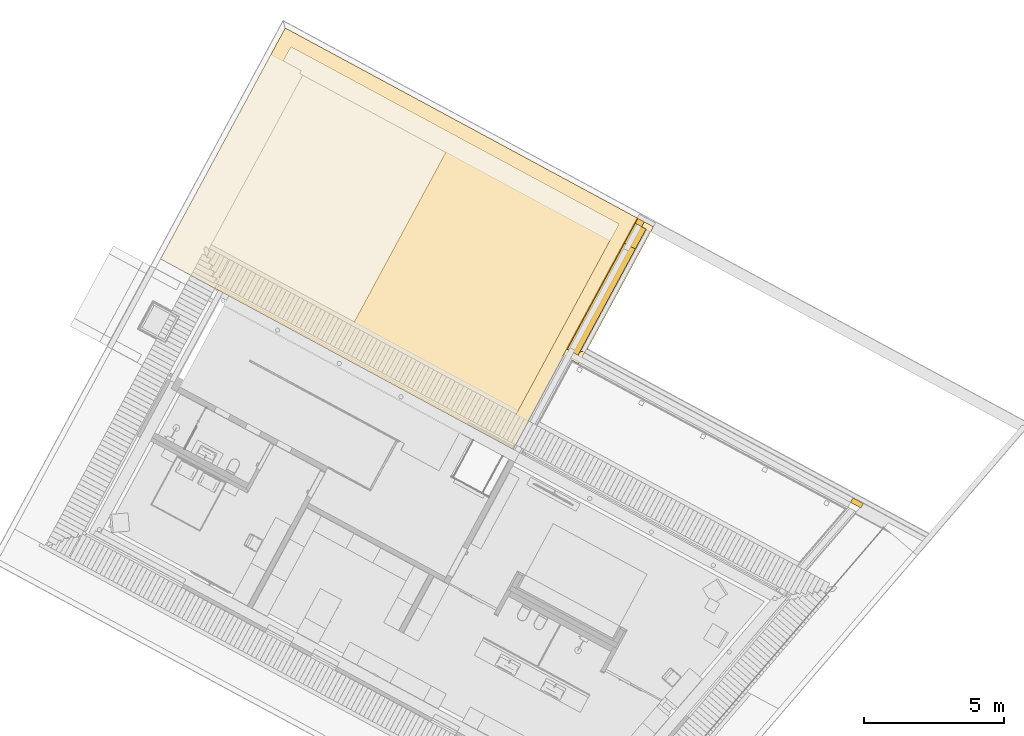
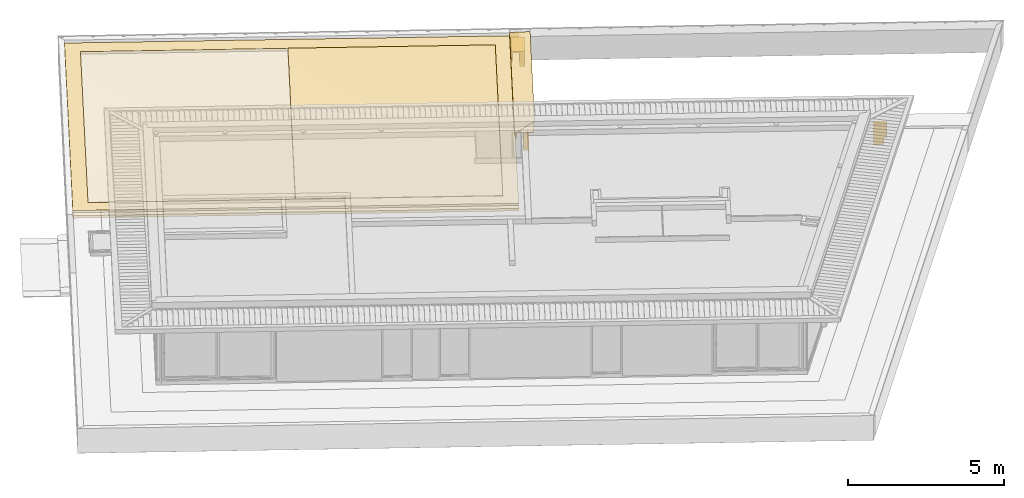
# One storey, part 15 of 48: 8 coverings.
"""IFC2X3 building model written with IfcOpenShell, lengths in metres."""

from ifc_helpers import new_model, entity, si_unit, converted_unit, derived_unit, money_unit, direction, frame, origin_with_axes, place, context, subcontext, project, spatial, faceted_brep, material, material_list, type_object, element, save


model = new_model("IFC2X3")

# Units and contexts
model_context = context("Model", 3, precision=1e-05, world=origin_with_axes(), true_north=direction((0.0, 1.0)))
body_context = subcontext(model_context, "Body", "Model", "MODEL_VIEW")
ifc_project = project(units=[si_unit("LENGTHUNIT", "METRE"), si_unit("AREAUNIT", "SQUARE_METRE"), si_unit("VOLUMEUNIT", "CUBIC_METRE"), converted_unit("PLANEANGLEUNIT", "DEGREE", entity("IfcPlaneAngleMeasure", 0.0174532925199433), si_unit("PLANEANGLEUNIT", "RADIAN"), dimensions=[0, 0, 0, 0, 0, 0, 0]), money_unit("EUR"), converted_unit("TIMEUNIT", "Year", entity("IfcTimeMeasure", 31556926.0), si_unit("TIMEUNIT", "SECOND"), dimensions=[0, 0, 1, 0, 0, 0, 0]), si_unit("MASSUNIT", "GRAM", prefix="KILO"), si_unit("THERMODYNAMICTEMPERATUREUNIT", "DEGREE_CELSIUS"), si_unit("LUMINOUSINTENSITYUNIT", "LUMEN"), si_unit("ENERGYUNIT", "JOULE", prefix="MEGA"), derived_unit("THERMALCONDUCTANCEUNIT", [(si_unit("POWERUNIT", "WATT"), 1), (si_unit("LENGTHUNIT", "METRE"), -1), (si_unit("THERMODYNAMICTEMPERATUREUNIT", "KELVIN"), -1)]), derived_unit("SPECIFICHEATCAPACITYUNIT", [(si_unit("ENERGYUNIT", "JOULE"), 1), (si_unit("MASSUNIT", "GRAM", prefix="KILO"), -1), (si_unit("THERMODYNAMICTEMPERATUREUNIT", "KELVIN"), -1)]), derived_unit("MASSDENSITYUNIT", [(si_unit("MASSUNIT", "GRAM", prefix="KILO"), 1), (si_unit("VOLUMEUNIT", "CUBIC_METRE"), -1)])], contexts=[model_context])

# Site, building, storey
site_placement = place(None, frame((-3.949935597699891, 1.740105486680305, 0.0), z_axis=(0.0, 0.0, 1.0), x_axis=(0.8799804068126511, -0.475009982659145, 0.0)))
site = spatial("IfcSite", under=ifc_project, at=site_placement, Name="Gelände", CompositionType="ELEMENT")
building_placement = place(site_placement, origin_with_axes())
building = spatial("IfcBuilding", under=site, at=building_placement, Name="Gebäude", CompositionType="ELEMENT")
storey_placement = place(building_placement, frame((0.0, 0.0, 4.55), z_axis=(0.0, 0.0, 1.0), x_axis=(1.0, 0.0, 0.0)))
storey = spatial("IfcBuildingStorey", under=building, at=storey_placement, Name="Staffelgeschoss", CompositionType="ELEMENT", Elevation=4.55)

# Coverings
ifc_material_1 = material(Name="_SIWH - Dämmung, hart Mineralwolle")
covering_type_1 = type_object("IfcCoveringType", Name="_SIWH - Dämmung, hart Mineralwolle 100", PredefinedType="NOTDEFINED")
covering_1_placement = place(storey_placement, frame((2.837489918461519, 20.38528216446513, -0.3499999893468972), z_axis=(0.0, 0.0, 1.0), x_axis=(1.0, 0.0, 0.0)))
element("IfcCovering", 1, at=covering_1_placement, inside=storey, type_object=covering_type_1, material=ifc_material_1, Name="Decke012", PredefinedType="NOTDEFINED", context=body_context, shape_type="Brep", body=[
    faceted_brep([(0.0, 0.0, 0.0), (0.0, 0.0, -0.09999999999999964), (0.0, -9.34748161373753, -0.09999999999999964), (0.0, -9.34748161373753, 0.0), (14.26998597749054, 0.0, 0.0), (14.26998597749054, 0.0, -0.09999999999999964), (14.27000043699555, -9.34748161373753, -0.09999999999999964), (14.27000043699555, -9.34748161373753, 0.0)], [[[0, 1, 2, 3]], [[4, 5, 1, 0]], [[2, 1, 5, 6]], [[3, 2, 6, 7]], [[4, 0, 3, 7]], [[7, 6, 5, 4]]]),
])
ifc_material_2 = material(Name="_SIWH - Gründach")
covering_type_2 = type_object("IfcCoveringType", Name="_SIWH - Gründach", PredefinedType="NOTDEFINED")
covering_2_placement = place(storey_placement, frame((9.972490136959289, 11.0378005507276, -0.3299999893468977), z_axis=(0.0, 0.0, 1.0), x_axis=(1.0, 0.0, 0.0)))
element("IfcCovering", 2, at=covering_2_placement, inside=storey, type_object=covering_type_2, material=ifc_material_2, Name="Freifläche-006", PredefinedType="NOTDEFINED", context=body_context, shape_type="Brep", body=[
    faceted_brep([(6.635000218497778, 8.84748155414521, 0.1847004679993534), (0.0, 8.84748155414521, 0.1847004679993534), (0.0, 8.241240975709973, 0.1709999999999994), (6.635000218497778, 8.241240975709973, 0.1709999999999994), (6.635000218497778, 8.84748155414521, 0.08470046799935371), (0.0, 8.84748155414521, 0.08470046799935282), (0.0, 0.4350000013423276, 0.08616940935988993), (0.0, 0.4350000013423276, 0.1861694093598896), (0.0, 1.1062407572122, 0.1709999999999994), (0.0, 8.241240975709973, 0.07099999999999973), (0.0, 1.1062407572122, 0.07100000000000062), (6.635000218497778, 7.741240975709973, 0.1610490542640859), (3.56750010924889, 4.673740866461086, 0.09999999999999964), (6.635000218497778, 1.6062407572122, 0.1610490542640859), (6.635000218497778, 1.1062407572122, 0.1709999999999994), (6.635000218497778, 0.4350000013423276, 0.1861694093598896), (6.635000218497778, 0.4350000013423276, 0.08616940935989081), (6.635000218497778, 1.1062407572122, 0.07100000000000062), (6.635000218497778, 1.6062407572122, 0.06104905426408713), (6.635000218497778, 7.741240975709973, 0.06104905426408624), (6.635000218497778, 8.241240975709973, 0.07099999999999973), (3.56750010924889, 4.673740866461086, 0.0)], [[[0, 1, 2, 3]], [[1, 0, 4, 5]], [[6, 7, 8, 2, 1, 5, 9, 10]], [[11, 3, 2, 12]], [[0, 3, 11, 13, 14, 15, 16, 17, 18, 19, 20, 4]], [[4, 20, 9, 5]], [[15, 7, 6, 16]], [[15, 14, 8, 7]], [[12, 2, 8]], [[21, 10, 9]], [[16, 6, 10, 17]], [[13, 11, 12]], [[14, 13, 12, 8]], [[18, 17, 10, 21]], [[19, 18, 21]], [[20, 19, 21, 9]]]),
    faceted_brep([(7.134986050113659, 8.241226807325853, 0.1709997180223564), (7.134986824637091, 3.845245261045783, 0.1709997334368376), (7.135000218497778, 3.845245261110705, 0.1709999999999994), (7.135000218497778, 8.241240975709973, 0.1709999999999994), (7.134986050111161, 8.241240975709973, 0.1709999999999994), (7.134985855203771, 9.34748161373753, 0.1959999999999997), (7.134985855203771, 9.34748161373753, 0.09600000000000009), (7.134986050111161, 8.241240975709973, 0.07099999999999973), (7.134986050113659, 8.241226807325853, 0.07099971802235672), (7.134986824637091, 3.845245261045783, 0.07099973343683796), (7.135000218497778, 3.845245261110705, 0.07100000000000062), (7.135000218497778, 8.241240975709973, 0.07099999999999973), (7.135000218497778, 9.34748161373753, 0.09600000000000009), (7.135000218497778, 9.34748161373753, 0.1959999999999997)], [[[0, 1, 2, 3]], [[4, 5, 6, 7, 8, 9, 1, 0]], [[10, 2, 1, 9]], [[2, 10, 11, 12, 13, 3]], [[4, 0, 3]], [[5, 4, 3, 13]], [[6, 5, 13, 12]], [[7, 6, 12, 11]], [[8, 7, 11]], [[9, 8, 11, 10]]]),
])
ifc_material_3 = material(Name="_SIWH - Metall, Aluminium")
ifc_material_4 = material(Name="_SIWH - Holz, Bauholz")
ifc_material_list_1 = material_list([ifc_material_3, ifc_material_4])
covering_type_3 = type_object("IfcCoveringType", Name="_SIWH - Attikablech1 Achse3+B EG 660 x 115", PredefinedType="NOTDEFINED")
covering_3_placement = place(storey_placement, frame((17.36749037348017, 15.0830461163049, -0.3999999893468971), z_axis=(0.0, 0.0, 1.0), x_axis=(-4.180477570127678e-06, 0.9999999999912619, 0.0)))
element("IfcCovering", 3, at=covering_3_placement, inside=storey, type_object=covering_type_3, material=ifc_material_list_1, Name="Wand-028", PredefinedType="NOTDEFINED", context=body_context, shape_type="Brep", body=[
    faceted_brep([(-0.2899976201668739, 0.2900000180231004, 0.3769000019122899), (-0.2899976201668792, 0.2900000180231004, 0.2849999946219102), (-0.2899976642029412, 0.2851715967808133, 0.2898284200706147), (-0.2899976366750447, 0.2880000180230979, 0.2898284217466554), (-0.2899976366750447, 0.2880000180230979, 0.3749687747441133), (-0.289998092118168, 0.232822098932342, 0.3769000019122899), (5.302236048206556, 0.2900000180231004, 0.2849999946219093), (5.302236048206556, 0.2900000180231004, 0.3768999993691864), (-0.2879976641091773, 0.2851715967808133, 0.2898284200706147), (5.302236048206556, 0.2702236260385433, 0.3047763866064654), (-0.2730498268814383, 0.2702236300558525, 0.3047763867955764), (-0.2879976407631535, 0.288000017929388, 0.2898284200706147), (5.302236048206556, 0.2880000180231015, 0.3749687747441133), (5.302236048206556, 0.2880000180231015, 0.2898284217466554), (5.302236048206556, -0.367999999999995, 0.3979287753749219), (0.3679969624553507, -0.3680000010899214, 0.3979287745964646), (0.3108192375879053, -0.3679999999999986, 0.3979287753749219), (0.3699969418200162, -0.3699999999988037, 0.3999999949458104), (0.3108190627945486, -0.3700000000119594, 0.3979287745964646), (5.302236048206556, -0.3699999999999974, 0.399999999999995), (5.302236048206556, -0.3699999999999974, 0.2849999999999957), (5.302236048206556, -0.3500000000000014, 0.3049999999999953), (5.302236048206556, -0.3514142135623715, 0.306414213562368), (5.302236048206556, -0.367999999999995, 0.2898284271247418), (5.302236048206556, 0.2716378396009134, 0.3061906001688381), (-0.2716355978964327, 0.2716378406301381, 0.3061905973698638), (0.3679969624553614, -0.367999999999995, 0.3061906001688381), (0.3679969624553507, -0.3680000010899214, 0.3064142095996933), (0.3679969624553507, -0.3680000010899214, 0.3349999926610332), (0.3679969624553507, -0.3680000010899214, 0.3599999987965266), (0.3679969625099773, -0.3679999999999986, 0.2898284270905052), (0.3679969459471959, -0.370000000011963, 0.3979287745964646), (0.3651685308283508, -0.370000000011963, 0.2898284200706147), (0.3699969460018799, -0.370000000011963, 0.2849999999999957), (0.3679969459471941, -0.370000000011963, 0.3599999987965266), (0.3679969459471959, -0.370000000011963, 0.3349999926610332), (0.3679969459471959, -0.370000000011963, 0.3064142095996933), (0.3679969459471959, -0.3699999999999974, 0.3061906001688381), (0.36799694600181, -0.3699999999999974, 0.2898284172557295), (0.3651685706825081, -0.3651715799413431, 0.2898284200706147), (0.3499971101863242, -0.3500000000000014, 0.3050000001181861), (0.3511876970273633, -0.3511905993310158, 0.3061905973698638), (0.3514113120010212, -0.3514142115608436, 0.3064142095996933), (0.351187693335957, -0.351637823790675, 0.3061905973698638), (0.3499970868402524, -0.3528284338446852, 0.3049999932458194), (0.3651685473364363, -0.3679999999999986, 0.2898284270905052)], [[[0, 1, 2, 3, 4, 5]], [[6, 1, 0, 7]], [[8, 2, 1, 6, 9, 10]], [[11, 3, 2, 8]], [[12, 4, 3, 11, 13]], [[5, 4, 12, 14, 15, 16]], [[17, 0, 5, 16, 18]], [[19, 7, 0, 17]], [[9, 6, 7, 19, 20, 21, 22, 23, 14, 12, 13, 24]], [[24, 25, 10, 9]], [[25, 11, 8, 10]], [[13, 11, 25, 24]], [[26, 27, 28, 29, 15, 14, 23, 30]], [[18, 16, 15, 31]], [[32, 33, 20, 19, 17, 18, 31, 34, 35, 36, 37, 38]], [[33, 39, 40, 21, 20]], [[21, 40, 41, 42, 22]], [[42, 43, 44, 45, 30, 23, 22]], [[36, 27, 26, 37]], [[35, 28, 27, 36]], [[34, 29, 28, 35]], [[31, 15, 29, 34]], [[26, 30, 38, 37]], [[33, 32, 45, 39]], [[30, 45, 32, 38]], [[45, 44, 40, 39]], [[41, 40, 44, 43]], [[42, 41, 43]]]),
    faceted_brep([(5.302236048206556, 0.2600000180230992, 0.3599999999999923), (-0.2599978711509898, 0.2600000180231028, 0.3599999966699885), (-0.2600028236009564, -0.3399999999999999, 0.3599999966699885), (5.302236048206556, -0.3399999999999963, 0.3599999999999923), (5.302236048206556, 0.2600000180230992, 0.3349999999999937), (-0.2599978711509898, 0.2600000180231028, 0.334999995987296), (-0.2600028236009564, -0.3399999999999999, 0.334999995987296), (5.302236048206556, -0.3399999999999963, 0.3349999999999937)], [[[0, 1, 2, 3]], [[4, 5, 1, 0]], [[5, 6, 2, 1]], [[3, 2, 6, 7]], [[3, 7, 4, 0]], [[7, 6, 5, 4]]]),
])
ifc_material_5 = material(Name="_SIWH - Dämmung, weich Mineralwolle")
ifc_material_list_2 = material_list([ifc_material_5, ifc_material_1])
covering_type_4 = type_object("IfcCoveringType", Name="_SIWH - Attika1 Achse3 EG 440 x 865", PredefinedType="NOTDEFINED")
covering_4_placement = place(storey_placement, frame((17.36747601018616, 19.38028828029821, -0.3999999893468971), z_axis=(0.0, 0.0, 1.0), x_axis=(0.0, -1.0, 0.0)))
element("IfcCovering", 4, at=covering_4_placement, inside=storey, type_object=covering_type_4, material=ifc_material_list_2, Name="A-Wand054", PredefinedType="NOTDEFINED", context=body_context, shape_type="Brep", body=[
    faceted_brep([(4.297242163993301, 7.701032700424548e-09, -0.05000000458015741), (4.297242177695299, 7.701032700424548e-09, -0.2500000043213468), (4.297242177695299, 4.99921526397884e-09, -0.5300000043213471), (4.297242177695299, 0.1800000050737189, -0.5300000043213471), (4.297242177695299, 0.1800000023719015, -0.2500000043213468), (4.297242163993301, 0.1800000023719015, -0.05000000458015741), (0.0, 4.99921526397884e-09, -0.5300000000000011), (4.297242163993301, 4.99921526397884e-09, 0.2749999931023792), (0.0, 4.99921526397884e-09, 0.2749999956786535), (0.0, 0.1800000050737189, -0.5300000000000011), (0.0, 0.1800000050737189, 0.2749999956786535), (4.297242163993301, 0.1800000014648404, 0.2749999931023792)], [[[0, 1, 2, 3, 4, 5]], [[6, 2, 1, 0, 7, 8]], [[9, 3, 2, 6]], [[5, 4, 3, 9, 10, 11]], [[11, 7, 0, 5]], [[10, 8, 7, 11]], [[9, 6, 8, 10]]]),
    faceted_brep([(0.0, 0.1799999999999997, 0.3349999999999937), (0.0, -0.2600000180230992, 0.3349999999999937), (4.297242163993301, -0.2600000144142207, 0.3349999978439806), (4.297242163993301, 0.1800000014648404, 0.3349999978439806), (0.0, 4.99921526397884e-09, 0.2749999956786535), (0.0, -0.2000000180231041, 0.274999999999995), (0.0, -0.2000000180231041, -0.04999999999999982), (0.0, -0.2600000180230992, -0.04999999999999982), (0.0, 0.1799999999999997, 0.274999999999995), (4.297242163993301, -0.2600000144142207, -0.05000000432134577), (4.297242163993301, -0.2600000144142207, 0.2749999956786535), (4.297242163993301, -0.2000000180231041, 0.2749999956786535), (4.297242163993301, 4.99921526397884e-09, 0.2749999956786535), (4.297242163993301, 0.1800000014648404, 0.2749999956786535), (4.297242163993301, -0.2000000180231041, -0.05000000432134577)], [[[0, 1, 2, 3]], [[4, 5, 6, 7, 1, 0, 8]], [[7, 9, 10, 2, 1]], [[11, 12, 13, 3, 2, 10]], [[8, 0, 3, 13]], [[5, 4, 12, 11]], [[6, 5, 11, 14]], [[7, 6, 14, 9]], [[4, 8, 13, 12]], [[9, 14, 11, 10]]]),
])
covering_type_5 = type_object("IfcCoveringType", Name="_SIWH - Attika2 Achse3 EG 440 x 585", PredefinedType="NOTDEFINED")
covering_5_placement = place(storey_placement, frame((17.36747601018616, 20.18528216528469, -0.3999999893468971), z_axis=(0.0, 0.0, 1.0), x_axis=(0.0, -1.0, 0.0)))
element("IfcCovering", 5, at=covering_5_placement, inside=storey, type_object=covering_type_5, material=ifc_material_list_2, Name="A-Wand056", PredefinedType="NOTDEFINED", context=body_context, shape_type="Brep", body=[
    faceted_brep([(0.0, 0.1800000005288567, 0.2749999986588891), (0.8049938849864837, 0.1800000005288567, 0.2749999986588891), (0.8049938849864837, 0.1800000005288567, -0.2499999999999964), (0.0, 0.1800000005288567, -0.2499999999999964), (0.0, -3.49445627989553e-09, 0.2749999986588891), (0.8049938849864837, -3.49445627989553e-09, 0.2749999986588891), (0.8049938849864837, -3.49445627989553e-09, -0.2499999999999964), (0.0, -3.49445627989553e-09, -0.2499999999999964)], [[[0, 1, 2, 3]], [[4, 5, 1, 0]], [[2, 1, 5, 6]], [[3, 2, 6, 7]], [[4, 0, 3, 7]], [[7, 6, 5, 4]]]),
    faceted_brep([(0.0, -0.2600000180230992, 0.3349999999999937), (0.0, -0.2600000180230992, -0.04999999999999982), (0.8049938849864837, -0.2600000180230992, -0.04999999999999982), (0.8049938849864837, -0.2600000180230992, 0.3349999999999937), (0.0, -0.2000000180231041, 0.274999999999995), (0.0, -0.2000000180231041, -0.04999999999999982), (0.0, 0.1799999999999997, 0.3349999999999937), (0.0, 0.1799999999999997, 0.274999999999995), (0.0, -3.49445627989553e-09, 0.2749999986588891), (0.8049938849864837, -0.2000000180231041, -0.04999999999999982), (0.8049938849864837, 0.1799999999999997, 0.3349999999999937), (0.8049938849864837, -0.2000000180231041, 0.274999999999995), (0.8049938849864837, -3.49445627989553e-09, 0.2749999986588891), (0.8049938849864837, 0.1799999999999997, 0.274999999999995)], [[[0, 1, 2, 3]], [[4, 5, 1, 0, 6, 7, 8]], [[1, 5, 9, 2]], [[10, 3, 2, 9, 11, 12, 13]], [[6, 0, 3, 10]], [[5, 4, 11, 9]], [[7, 6, 10, 13]], [[8, 7, 13, 12]], [[4, 8, 12, 11]]]),
])
covering_type_6 = type_object("IfcCoveringType", Name="_SIWH - Dämmung, weich Mineralwolle 180", PredefinedType="NOTDEFINED")
covering_6_placement = place(storey_placement, frame((28.57608562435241, 15.0830461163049, -0.9299999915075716), z_axis=(0.0, 0.0, 1.0), x_axis=(1.0, 0.0, 0.0)))
element("IfcCovering", 6, at=covering_6_placement, inside=storey, type_object=covering_type_6, material=ifc_material_5, Name="A-Wand060", PredefinedType="NOTDEFINED", context=body_context, shape_type="Brep", body=[
    faceted_brep([(0.4239620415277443, 0.0, 0.8049999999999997), (0.4239620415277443, 4.99921526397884e-09, 0.2799999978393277), (0.4239620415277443, 0.1800000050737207, 0.2799999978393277), (0.4239620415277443, 0.1799999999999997, 0.8049999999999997), (0.3278623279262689, 4.99921526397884e-09, 2.160673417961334e-09), (0.3278623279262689, 4.99921526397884e-09, 0.2799999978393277), (0.0, 0.0, 0.8049999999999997), (0.0, 0.0, 0.0), (0.3278623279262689, 0.1800000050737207, 0.2799999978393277), (0.3278623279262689, 0.1800000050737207, 2.160673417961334e-09), (0.0, 0.1799999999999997, 0.0), (0.0, 0.1799999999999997, 0.8049999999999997)], [[[0, 1, 2, 3]], [[4, 5, 1, 0, 6, 7]], [[5, 8, 2, 1]], [[2, 8, 9, 10, 11, 3]], [[11, 6, 0, 3]], [[4, 9, 8, 5]], [[10, 7, 6, 11]], [[10, 9, 4, 7]]]),
])
covering_type_7 = type_object("IfcCoveringType", Name="_SIWH - Attika3 Achse3 EG 260 x 385", PredefinedType="NOTDEFINED")
covering_7_placement = place(storey_placement, frame((17.36747601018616, 20.38528216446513, -0.3999999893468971), z_axis=(0.0, 0.0, 1.0), x_axis=(0.0, -1.0, 0.0)))
element("IfcCovering", 7, at=covering_7_placement, inside=storey, type_object=covering_type_7, material=ifc_material_1, Name="A-Wand055", PredefinedType="NOTDEFINED", context=body_context, shape_type="Brep", body=[
    faceted_brep([(0.0, -0.2600000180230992, 0.3349999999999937), (0.0, -0.2600000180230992, -0.04999999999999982), (0.199999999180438, -0.2600000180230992, -0.04999999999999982), (0.199999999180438, -0.2600000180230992, 0.3349999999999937), (0.0, -0.2000000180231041, 0.274999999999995), (0.0, -0.2000000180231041, -0.04999999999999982), (0.0, 0.0, 0.3349999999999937), (0.0, 0.0, 0.274999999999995), (0.199999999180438, -0.2000000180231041, -0.04999999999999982), (0.199999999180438, 0.0, 0.3349999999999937), (0.199999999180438, -0.2000000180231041, 0.274999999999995), (0.199999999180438, 0.0, 0.274999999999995)], [[[0, 1, 2, 3]], [[4, 5, 1, 0, 6, 7]], [[1, 5, 8, 2]], [[9, 3, 2, 8, 10, 11]], [[6, 0, 3, 9]], [[5, 4, 10, 8]], [[7, 6, 9, 11]], [[4, 7, 11, 10]]]),
])
ifc_material_6 = material(Name="_SIWH - Schotter, fein")
covering_type_8 = type_object("IfcCoveringType", Name="_SIWH - Schotter, fein  200", PredefinedType="NOTDEFINED")
covering_8_placement = place(storey_placement, frame((2.837489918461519, 11.03780061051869, -0.1499999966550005), z_axis=(0.0, 0.0, 1.0), x_axis=(1.0, 0.0, 0.0)))
element("IfcCovering", 8, at=covering_8_placement, inside=storey, type_object=covering_type_8, material=ifc_material_6, Name="Decke054", PredefinedType="NOTDEFINED", context=body_context, shape_type="Brep", body=[
    faceted_brep([(14.27000043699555, -5.979109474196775e-08, -0.08399999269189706), (14.27000043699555, 1.106240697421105, -0.1089999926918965), (14.27000043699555, 3.84524520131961, -0.1089999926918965), (14.27000043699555, 3.84524520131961, 0.0), (14.27000043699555, 0.0, 0.0), (7.135000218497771, 0.4349999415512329, -0.09383058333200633), (13.77000043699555, 0.4349999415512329, -0.09383058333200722), (13.77000043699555, 1.106240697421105, -0.1089999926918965), (7.135000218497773, -5.979109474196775e-08, -0.08399999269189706), (0.0, -5.979109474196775e-08, -0.08399999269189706), (0.0, 1.106240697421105, -0.1089999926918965), (0.5000000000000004, 1.106240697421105, -0.1089999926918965), (0.5000000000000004, 0.4349999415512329, -0.09383058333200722), (14.26998704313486, 3.845245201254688, -0.1090002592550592), (13.77000043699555, 1.606240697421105, -0.11895093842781), (13.77000043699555, 7.741240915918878, -0.1189509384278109), (14.26998607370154, 8.241226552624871, -0.1090002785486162), (14.26998704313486, 3.845245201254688, 0.0), (0.0, 0.0, 0.0), (14.26998607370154, 9.347481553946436, 0.0), (0.0, 9.347481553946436, 0.0), (13.77000043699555, 8.847481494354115, 0.0), (13.77000043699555, 0.4349999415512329, 0.0), (0.5000000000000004, 0.4349999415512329, 0.0), (0.5000000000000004, 8.847481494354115, 0.0), (13.77000043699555, 8.847481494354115, -0.09529952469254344), (13.77000043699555, 8.241240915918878, -0.1089999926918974), (0.0, 8.241240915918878, -0.1089999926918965), (0.0, 9.347481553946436, -0.08399999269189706), (0.5000000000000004, 1.606240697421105, -0.11895093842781), (0.5000000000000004, 7.741240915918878, -0.11895093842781), (0.5000000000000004, 8.241240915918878, -0.1089999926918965), (0.5000000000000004, 8.847481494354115, -0.09529952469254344), (14.26998607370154, 8.241240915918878, -0.1089999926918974), (14.26998607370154, 9.347481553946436, -0.08399999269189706), (7.135000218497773, 9.347481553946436, -0.08399999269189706), (7.135000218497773, 8.847481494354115, -0.09529952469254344)], [[[0, 1, 2, 3, 4]], [[5, 6, 7, 1, 0, 8, 9, 10, 11, 12]], [[13, 2, 1, 14, 15, 16]], [[2, 13, 17, 3]], [[18, 4, 3, 17, 19, 20], [21, 22, 23, 24]], [[8, 0, 4, 18, 9]], [[6, 5, 12, 23, 22]], [[7, 6, 22, 21, 25, 26, 15, 14]], [[7, 14, 1]], [[27, 10, 9, 18, 20, 28]], [[10, 29, 11]], [[30, 31, 32, 24, 23, 12, 11, 29]], [[33, 16, 15, 26]], [[33, 34, 19, 17, 13, 16]], [[34, 35, 28, 20, 19]], [[36, 25, 21, 24, 32]], [[35, 34, 33, 26, 25, 36, 32, 31, 27, 28]], [[27, 30, 29, 10]], [[27, 31, 30]]]),
])

save(model, "model.ifc")
